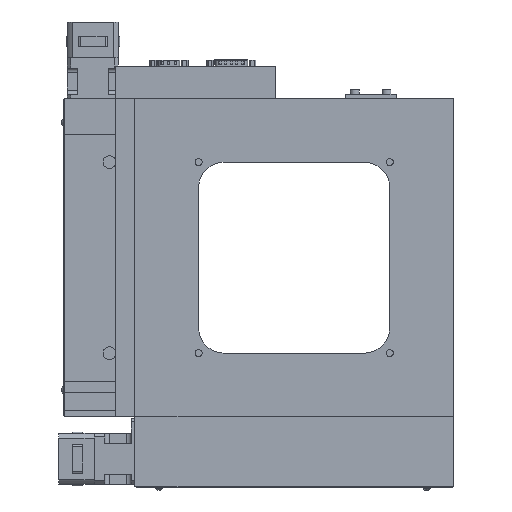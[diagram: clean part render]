
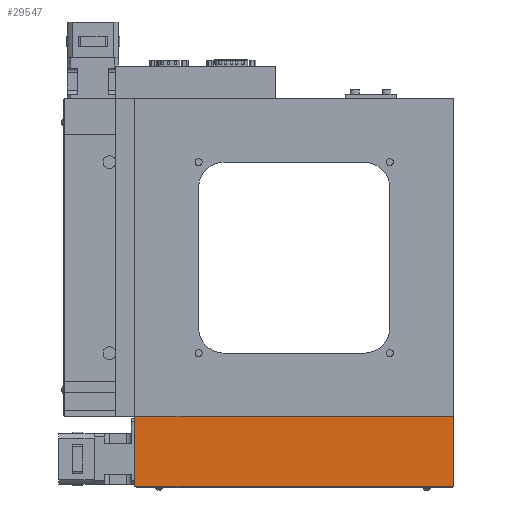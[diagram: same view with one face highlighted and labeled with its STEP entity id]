
A CAD part, front view. The second image highlights one B-rep face of the part: STEP entity #29547.
In plain terms, the highlighted planar face has unit normal (0, -1, 0).
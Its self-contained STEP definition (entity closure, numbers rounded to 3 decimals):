
#4616 = LINE ( 'NONE', #12894, #7188 ) ;
#6822 = ORIENTED_EDGE ( 'NONE', *, *, #9870, .T. ) ;
#7188 = VECTOR ( 'NONE', #61535, 1000. ) ;
#8490 = VERTEX_POINT ( 'NONE', #15526 ) ;
#9870 = EDGE_CURVE ( 'NONE', #64507, #41235, #36599, .T. ) ;
#12894 = CARTESIAN_POINT ( 'NONE',  ( -125., 0.2, -125. ) ) ;
#15526 = CARTESIAN_POINT ( 'NONE',  ( -125., 0.2, -180. ) ) ;
#17545 = VECTOR ( 'NONE', #45949, 1000. ) ;
#17674 = FACE_OUTER_BOUND ( 'NONE', #19111, .T. ) ;
#17791 = EDGE_CURVE ( 'NONE', #64507, #49826, #36695, .T. ) ;
#19111 = EDGE_LOOP ( 'NONE', ( #31356, #6822, #56569, #60132 ) ) ;
#22428 = VECTOR ( 'NONE', #34244, 1000. ) ;
#29547 = ADVANCED_FACE ( 'NONE', ( #17674 ), #36708, .T. ) ;
#31356 = ORIENTED_EDGE ( 'NONE', *, *, #17791, .F. ) ;
#34244 = DIRECTION ( 'NONE',  ( -1., 0., 0. ) ) ;
#36599 = LINE ( 'NONE', #51262, #22428 ) ;
#36695 = LINE ( 'NONE', #62518, #55152 ) ;
#36708 = PLANE ( 'NONE',  #45212 ) ;
#37029 = EDGE_CURVE ( 'NONE', #49826, #8490, #64341, .T. ) ;
#41235 = VERTEX_POINT ( 'NONE', #63332 ) ;
#41393 = DIRECTION ( 'NONE',  ( 0., 0., -1. ) ) ;
#45212 = AXIS2_PLACEMENT_3D ( 'NONE', #63897, #58326, #53079 ) ;
#45949 = DIRECTION ( 'NONE',  ( -1., 0., 0. ) ) ;
#47846 = CARTESIAN_POINT ( 'NONE',  ( 125., 0.2, -180. ) ) ;
#49826 = VERTEX_POINT ( 'NONE', #47846 ) ;
#51262 = CARTESIAN_POINT ( 'NONE',  ( 181.47, 0.2, -125. ) ) ;
#51630 = CARTESIAN_POINT ( 'NONE',  ( 125., 0.2, -125. ) ) ;
#51840 = CARTESIAN_POINT ( 'NONE',  ( 181.47, 0.2, -180. ) ) ;
#53079 = DIRECTION ( 'NONE',  ( 0., 0., -1. ) ) ;
#55152 = VECTOR ( 'NONE', #41393, 1000. ) ;
#56569 = ORIENTED_EDGE ( 'NONE', *, *, #61584, .F. ) ;
#58326 = DIRECTION ( 'NONE',  ( 0., -1., 0. ) ) ;
#60132 = ORIENTED_EDGE ( 'NONE', *, *, #37029, .F. ) ;
#61535 = DIRECTION ( 'NONE',  ( 0., 0., 1. ) ) ;
#61584 = EDGE_CURVE ( 'NONE', #8490, #41235, #4616, .T. ) ;
#62518 = CARTESIAN_POINT ( 'NONE',  ( 125., 0.2, -125. ) ) ;
#63332 = CARTESIAN_POINT ( 'NONE',  ( -125., 0.2, -125. ) ) ;
#63897 = CARTESIAN_POINT ( 'NONE',  ( 181.47, 0.2, -125. ) ) ;
#64341 = LINE ( 'NONE', #51840, #17545 ) ;
#64507 = VERTEX_POINT ( 'NONE', #51630 ) ;
